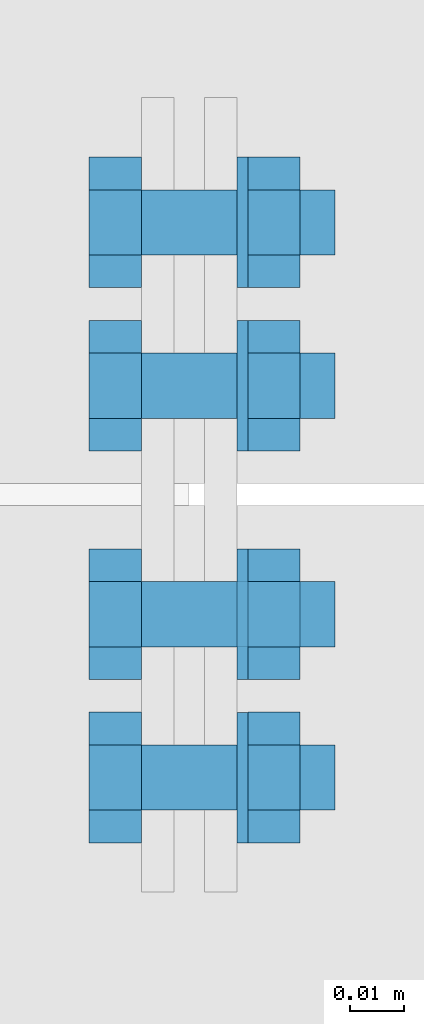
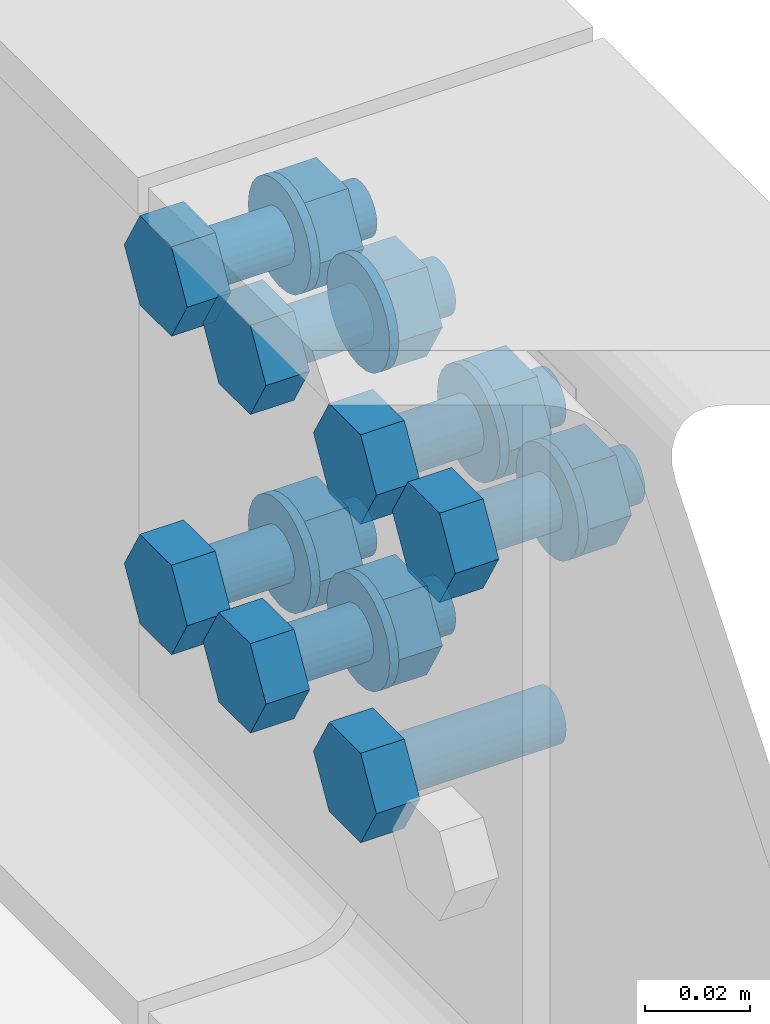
# One storey, part 79 of 84: 39 mechanical fasteners.
"""IFC4 building model written with IfcOpenShell, lengths in metres."""

from ifc_helpers import new_model, si_unit, frame, origin_with_axes, place, context, project, spatial, polyline, outline, extrude, type_object, element, save


model = new_model("IFC4")

# Units and contexts
model_context = context("Model", 3, precision=1e-05, world=origin_with_axes())
ifc_project = project(units=[si_unit("LENGTHUNIT", "METRE"), si_unit("AREAUNIT", "SQUARE_METRE"), si_unit("VOLUMEUNIT", "CUBIC_METRE"), si_unit("MASSUNIT", "GRAM", prefix="KILO"), si_unit("TIMEUNIT", "SECOND"), si_unit("PLANEANGLEUNIT", "RADIAN"), si_unit("SOLIDANGLEUNIT", "STERADIAN"), si_unit("THERMODYNAMICTEMPERATUREUNIT", "DEGREE_CELSIUS")], contexts=[model_context])

# Site, building, storey
placement_1 = place(None, origin_with_axes())
site = spatial("IfcSite", under=ifc_project, at=placement_1, Name="Italia", CompositionType="ELEMENT")
building = spatial("IfcBuilding", under=site, at=placement_1, Name="Tettoia", CompositionType="ELEMENT")
storey_placement = place(None, frame((0.0, 0.0, 4.199999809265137), z_axis=(0.0, 0.0, 1.0), x_axis=(1.0, 0.0, 0.0)))
storey = spatial("IfcBuildingStorey", under=building, at=storey_placement, Name="Storey 1", CompositionType="ELEMENT", Elevation=4.199999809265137)

# Mechanical fasteners
mechanical_fastener_type_1 = type_object("IfcMechanicalFastenerType", Name="Collegamento 0123_0115", PredefinedType="BOLT")
placement_2 = place(placement_1, origin_with_axes())
mechanical_fastener_1_placement = place(placement_2, origin_with_axes())
element("IfcMechanicalFastener", 1, at=mechanical_fastener_1_placement, inside=storey, type_object=mechanical_fastener_type_1, Name="Collegamento 0123_0115", NominalDiameter=0.024, context=model_context, shape_type="SweptSolid", body=[
    extrude(outline(polyline([(0.0, 0.0), (-0.000408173, -0.00310564), (-0.00160599, -0.00600004), (-0.00351334, -0.00848532), (-0.00599861, -0.0103922), (-0.00889397, -0.011591), (-0.0119991, -0.0120001), (-0.0151043, -0.011591), (-0.0179996, -0.0103922), (-0.0204849, -0.00848532), (-0.0223923, -0.00600004), (-0.0235901, -0.00310564), (-0.0239983, 0.0), (-0.0235901, 0.00310564), (-0.0223923, 0.00600004), (-0.0204849, 0.00848532), (-0.0179996, 0.0103922), (-0.0151043, 0.011591), (-0.0119991, 0.0120001), (-0.00889397, 0.011591), (-0.00599861, 0.0103922), (-0.00351334, 0.00848532), (-0.00160599, 0.00600004), (-0.000408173, 0.00310564), (0.0, 0.0)])), frame((4.0808, 16.895, 4.337), z_axis=(-1.0, 0.0, 0.0), x_axis=(0.0, -1.0, 0.0)), (0.0, 0.0, 1.0), 0.00199986),
])
mechanical_fastener_type_2 = type_object("IfcMechanicalFastenerType", Name="Collegamento 0123_0115", PredefinedType="BOLT")
mechanical_fastener_2_placement = place(placement_2, origin_with_axes())
element("IfcMechanicalFastener", 2, at=mechanical_fastener_2_placement, inside=storey, type_object=mechanical_fastener_type_2, Name="Collegamento 0123_0115", NominalDiameter=0.0119992, context=model_context, shape_type="SweptSolid", body=[
    extrude(outline(polyline([(0.0, 0.0), (0.012001, 0.0), (0.0179996, -0.0103922), (0.012001, -0.0207849), (0.0, -0.0207849), (-0.00599861, -0.0103922), (0.0, 0.0)])), frame((4.0612, 16.943, 4.34739), z_axis=(-1.0, 0.0, 0.0), x_axis=(0.0, -1.0, 0.0)), (0.0, 0.0, 1.0), 0.00960016),
])
mechanical_fastener_type_3 = type_object("IfcMechanicalFastenerType", Name="Collegamento 0123_0115", PredefinedType="BOLT")
mechanical_fastener_3_placement = place(placement_2, origin_with_axes())
element("IfcMechanicalFastener", 3, at=mechanical_fastener_3_placement, inside=storey, type_object=mechanical_fastener_type_3, Name="Collegamento 0123_0115", NominalDiameter=0.012, context=model_context, shape_type="SweptSolid", body=[
    extrude(outline(polyline([(0.0, 0.0), (-0.000204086, -0.00155306), (-0.000804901, -0.00299978), (-0.00175858, -0.00424242), (-0.00300026, -0.00519609), (-0.00444794, -0.00579548), (-0.00600052, -0.00600004), (-0.0075531, -0.00579548), (-0.00900078, -0.00519609), (-0.0102425, -0.00424242), (-0.0111961, -0.00299978), (-0.011797, -0.00155306), (-0.012001, 0.0), (-0.011797, 0.00155306), (-0.0111961, 0.00299978), (-0.0102425, 0.00424242), (-0.00900078, 0.00519609), (-0.0075531, 0.00579548), (-0.00600052, 0.00600004), (-0.00444794, 0.00579548), (-0.00300026, 0.00519609), (-0.00175858, 0.00424242), (-0.000804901, 0.00299978), (-0.000204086, 0.00155306), (0.0, 0.0)])), frame((4.0968, 16.931, 4.337), z_axis=(-1.0, 0.0, 0.0), x_axis=(0.0, -1.0, 0.0)), (0.0, 0.0, 1.0), 0.0356002),
])
mechanical_fastener_type_4 = type_object("IfcMechanicalFastenerType", Name="Collegamento 0123_0115", PredefinedType="BOLT")
mechanical_fastener_4_placement = place(placement_2, origin_with_axes())
element("IfcMechanicalFastener", 4, at=mechanical_fastener_4_placement, inside=storey, type_object=mechanical_fastener_type_4, Name="Collegamento 0123_0115", NominalDiameter=0.0119992, context=model_context, shape_type="SweptSolid", body=[
    extrude(outline(polyline([(0.0, 0.0), (0.012001, 0.0), (0.0179996, -0.0103922), (0.012001, -0.0207849), (0.0, -0.0207849), (-0.00599861, -0.0103922), (0.0, 0.0)])), frame((4.0904, 16.943, 4.34739), z_axis=(-1.0, 0.0, 0.0), x_axis=(0.0, -1.0, 0.0)), (0.0, 0.0, 1.0), 0.00960016),
])
mechanical_fastener_type_5 = type_object("IfcMechanicalFastenerType", Name="Collegamento 0123_0115", PredefinedType="BOLT")
mechanical_fastener_5_placement = place(placement_2, origin_with_axes())
element("IfcMechanicalFastener", 5, at=mechanical_fastener_5_placement, inside=storey, type_object=mechanical_fastener_type_5, Name="Collegamento 0123_0115", NominalDiameter=0.024, context=model_context, shape_type="SweptSolid", body=[
    extrude(outline(polyline([(0.0, 0.0), (-0.000408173, -0.00310564), (-0.00160599, -0.00600004), (-0.00351334, -0.00848532), (-0.00599861, -0.0103922), (-0.00889397, -0.011591), (-0.0119991, -0.0120001), (-0.0151043, -0.011591), (-0.0179996, -0.0103922), (-0.0204849, -0.00848532), (-0.0223923, -0.00600004), (-0.0235901, -0.00310564), (-0.0239983, 0.0), (-0.0235901, 0.00310564), (-0.0223923, 0.00600004), (-0.0204849, 0.00848532), (-0.0179996, 0.0103922), (-0.0151043, 0.011591), (-0.0119991, 0.0120001), (-0.00889397, 0.011591), (-0.00599861, 0.0103922), (-0.00351334, 0.00848532), (-0.00160599, 0.00600004), (-0.000408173, 0.00310564), (0.0, 0.0)])), frame((4.0808, 16.925, 4.337), z_axis=(-1.0, 0.0, 0.0), x_axis=(0.0, -1.0, 0.0)), (0.0, 0.0, 1.0), 0.00199986),
])
mechanical_fastener_type_6 = type_object("IfcMechanicalFastenerType", Name="Collegamento 0123_0115", PredefinedType="BOLT")
mechanical_fastener_6_placement = place(placement_2, origin_with_axes())
element("IfcMechanicalFastener", 6, at=mechanical_fastener_6_placement, inside=storey, type_object=mechanical_fastener_type_6, Name="Collegamento 0123_0115", NominalDiameter=0.0119991, context=model_context, shape_type="SweptSolid", body=[
    extrude(outline(polyline([(0.0, 0.0), (0.0119991, 0.0), (0.0179996, -0.0103927), (0.0119991, -0.0207849), (0.0, -0.0207849), (-0.00600052, -0.0103927), (0.0, 0.0)])), frame((4.0612, 16.913, 4.27339), z_axis=(-1.0, 0.0, 0.0), x_axis=(0.0, -1.0, 0.0)), (0.0, 0.0, 1.0), 0.00960016),
])
mechanical_fastener_type_7 = type_object("IfcMechanicalFastenerType", Name="Collegamento 0123_0115", PredefinedType="BOLT")
mechanical_fastener_7_placement = place(placement_2, origin_with_axes())
element("IfcMechanicalFastener", 7, at=mechanical_fastener_7_placement, inside=storey, type_object=mechanical_fastener_type_7, Name="Collegamento 0123_0115", NominalDiameter=0.012, context=model_context, shape_type="SweptSolid", body=[
    extrude(outline(polyline([(0.0, 0.0), (-0.000204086, -0.00155306), (-0.000804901, -0.00299978), (-0.00175858, -0.00424242), (-0.00300026, -0.00519609), (-0.00444794, -0.00579548), (-0.00600052, -0.00600004), (-0.0075531, -0.00579548), (-0.00900078, -0.00519609), (-0.0102425, -0.00424242), (-0.0111961, -0.00299978), (-0.011797, -0.00155306), (-0.012001, 0.0), (-0.011797, 0.00155306), (-0.0111961, 0.00299978), (-0.0102425, 0.00424242), (-0.00900078, 0.00519609), (-0.0075531, 0.00579548), (-0.00600052, 0.00600004), (-0.00444794, 0.00579548), (-0.00300026, 0.00519609), (-0.00175858, 0.00424242), (-0.000804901, 0.00299978), (-0.000204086, 0.00155306), (0.0, 0.0)])), frame((4.0968, 16.901, 4.263), z_axis=(-1.0, 0.0, 0.0), x_axis=(0.0, -1.0, 0.0)), (0.0, 0.0, 1.0), 0.0356002),
])
mechanical_fastener_type_8 = type_object("IfcMechanicalFastenerType", Name="Collegamento 0123_0115", PredefinedType="BOLT")
mechanical_fastener_8_placement = place(placement_2, origin_with_axes())
element("IfcMechanicalFastener", 8, at=mechanical_fastener_8_placement, inside=storey, type_object=mechanical_fastener_type_8, Name="Collegamento 0123_0115", NominalDiameter=0.0119991, context=model_context, shape_type="SweptSolid", body=[
    extrude(outline(polyline([(0.0, 0.0), (0.0119991, 0.0), (0.0179996, -0.0103927), (0.0119991, -0.0207849), (0.0, -0.0207849), (-0.00600052, -0.0103927), (0.0, 0.0)])), frame((4.0904, 16.913, 4.27339), z_axis=(-1.0, 0.0, 0.0), x_axis=(0.0, -1.0, 0.0)), (0.0, 0.0, 1.0), 0.00960016),
])
mechanical_fastener_type_9 = type_object("IfcMechanicalFastenerType", Name="Collegamento 0123_0115", PredefinedType="BOLT")
mechanical_fastener_9_placement = place(placement_2, origin_with_axes())
element("IfcMechanicalFastener", 9, at=mechanical_fastener_9_placement, inside=storey, type_object=mechanical_fastener_type_9, Name="Collegamento 0123_0115", NominalDiameter=0.024, context=model_context, shape_type="SweptSolid", body=[
    extrude(outline(polyline([(0.0, 0.0), (-0.000408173, -0.00310564), (-0.00160599, -0.00600004), (-0.00351334, -0.00848532), (-0.00599861, -0.0103922), (-0.00889397, -0.011591), (-0.0119991, -0.0120001), (-0.0151043, -0.011591), (-0.0179996, -0.0103922), (-0.0204849, -0.00848532), (-0.0223923, -0.00600004), (-0.0235901, -0.00310564), (-0.0239983, 0.0), (-0.0235901, 0.00310564), (-0.0223923, 0.00600004), (-0.0204849, 0.00848532), (-0.0179996, 0.0103922), (-0.0151043, 0.011591), (-0.0119991, 0.0120001), (-0.00889397, 0.011591), (-0.00599861, 0.0103922), (-0.00351334, 0.00848532), (-0.00160599, 0.00600004), (-0.000408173, 0.00310564), (0.0, 0.0)])), frame((4.0808, 16.895, 4.263), z_axis=(-1.0, 0.0, 0.0), x_axis=(0.0, -1.0, 0.0)), (0.0, 0.0, 1.0), 0.00199986),
])
mechanical_fastener_type_10 = type_object("IfcMechanicalFastenerType", Name="Collegamento 0123_0115", PredefinedType="BOLT")
mechanical_fastener_10_placement = place(placement_2, origin_with_axes())
element("IfcMechanicalFastener", 10, at=mechanical_fastener_10_placement, inside=storey, type_object=mechanical_fastener_type_10, Name="Collegamento 0123_0115", NominalDiameter=0.0119992, context=model_context, shape_type="SweptSolid", body=[
    extrude(outline(polyline([(0.0, 0.0), (0.012001, 0.0), (0.0179996, -0.0103927), (0.012001, -0.0207849), (0.0, -0.0207849), (-0.00599861, -0.0103927), (0.0, 0.0)])), frame((4.0612, 16.943, 4.27339), z_axis=(-1.0, 0.0, 0.0), x_axis=(0.0, -1.0, 0.0)), (0.0, 0.0, 1.0), 0.00960016),
])
mechanical_fastener_type_11 = type_object("IfcMechanicalFastenerType", Name="Collegamento 0123_0115", PredefinedType="BOLT")
mechanical_fastener_11_placement = place(placement_2, origin_with_axes())
element("IfcMechanicalFastener", 11, at=mechanical_fastener_11_placement, inside=storey, type_object=mechanical_fastener_type_11, Name="Collegamento 0123_0115", NominalDiameter=0.012, context=model_context, shape_type="SweptSolid", body=[
    extrude(outline(polyline([(0.0, 0.0), (-0.000204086, -0.00155306), (-0.000804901, -0.00299978), (-0.00175858, -0.00424242), (-0.00300026, -0.00519609), (-0.00444794, -0.00579548), (-0.00600052, -0.00600004), (-0.0075531, -0.00579548), (-0.00900078, -0.00519609), (-0.0102425, -0.00424242), (-0.0111961, -0.00299978), (-0.011797, -0.00155306), (-0.012001, 0.0), (-0.011797, 0.00155306), (-0.0111961, 0.00299978), (-0.0102425, 0.00424242), (-0.00900078, 0.00519609), (-0.0075531, 0.00579548), (-0.00600052, 0.00600004), (-0.00444794, 0.00579548), (-0.00300026, 0.00519609), (-0.00175858, 0.00424242), (-0.000804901, 0.00299978), (-0.000204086, 0.00155306), (0.0, 0.0)])), frame((4.0968, 16.931, 4.263), z_axis=(-1.0, 0.0, 0.0), x_axis=(0.0, -1.0, 0.0)), (0.0, 0.0, 1.0), 0.0356002),
])
mechanical_fastener_type_12 = type_object("IfcMechanicalFastenerType", Name="Collegamento 0123_0115", PredefinedType="BOLT")
mechanical_fastener_12_placement = place(placement_2, origin_with_axes())
element("IfcMechanicalFastener", 12, at=mechanical_fastener_12_placement, inside=storey, type_object=mechanical_fastener_type_12, Name="Collegamento 0123_0115", NominalDiameter=0.0119992, context=model_context, shape_type="SweptSolid", body=[
    extrude(outline(polyline([(0.0, 0.0), (0.012001, 0.0), (0.0179996, -0.0103927), (0.012001, -0.0207849), (0.0, -0.0207849), (-0.00599861, -0.0103927), (0.0, 0.0)])), frame((4.0904, 16.943, 4.27339), z_axis=(-1.0, 0.0, 0.0), x_axis=(0.0, -1.0, 0.0)), (0.0, 0.0, 1.0), 0.00960016),
])
mechanical_fastener_type_13 = type_object("IfcMechanicalFastenerType", Name="Collegamento 0123_0115", PredefinedType="BOLT")
mechanical_fastener_13_placement = place(placement_2, origin_with_axes())
element("IfcMechanicalFastener", 13, at=mechanical_fastener_13_placement, inside=storey, type_object=mechanical_fastener_type_13, Name="Collegamento 0123_0115", NominalDiameter=0.024, context=model_context, shape_type="SweptSolid", body=[
    extrude(outline(polyline([(0.0, 0.0), (-0.000408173, -0.00310564), (-0.00160599, -0.00600004), (-0.00351334, -0.00848532), (-0.00599861, -0.0103922), (-0.00889397, -0.011591), (-0.0119991, -0.0120001), (-0.0151043, -0.011591), (-0.0179996, -0.0103922), (-0.0204849, -0.00848532), (-0.0223923, -0.00600004), (-0.0235901, -0.00310564), (-0.0239983, 0.0), (-0.0235901, 0.00310564), (-0.0223923, 0.00600004), (-0.0204849, 0.00848532), (-0.0179996, 0.0103922), (-0.0151043, 0.011591), (-0.0119991, 0.0120001), (-0.00889397, 0.011591), (-0.00599861, 0.0103922), (-0.00351334, 0.00848532), (-0.00160599, 0.00600004), (-0.000408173, 0.00310564), (0.0, 0.0)])), frame((4.0808, 16.925, 4.263), z_axis=(-1.0, 0.0, 0.0), x_axis=(0.0, -1.0, 0.0)), (0.0, 0.0, 1.0), 0.00199986),
])
mechanical_fastener_type_14 = type_object("IfcMechanicalFastenerType", Name="Collegamento 0123_0115", PredefinedType="BOLT")
mechanical_fastener_14_placement = place(placement_2, origin_with_axes())
element("IfcMechanicalFastener", 14, at=mechanical_fastener_14_placement, inside=storey, type_object=mechanical_fastener_type_14, Name="Collegamento 0123_0115", NominalDiameter=0.0119991, context=model_context, shape_type="SweptSolid", body=[
    extrude(outline(polyline([(0.0, 0.0), (0.0119991, 0.0), (0.0179996, -0.0103922), (0.0119991, -0.0207849), (0.0, -0.0207849), (-0.00600052, -0.0103922), (0.0, 0.0)])), frame((4.0612, 16.913, 4.34739), z_axis=(-1.0, 0.0, 0.0), x_axis=(0.0, -1.0, 0.0)), (0.0, 0.0, 1.0), 0.00960016),
])
mechanical_fastener_type_15 = type_object("IfcMechanicalFastenerType", Name="Collegamento 0123_0115", PredefinedType="BOLT")
mechanical_fastener_15_placement = place(placement_2, origin_with_axes())
element("IfcMechanicalFastener", 15, at=mechanical_fastener_15_placement, inside=storey, type_object=mechanical_fastener_type_15, Name="Collegamento 0123_0115", NominalDiameter=0.012, context=model_context, shape_type="SweptSolid", body=[
    extrude(outline(polyline([(0.0, 0.0), (-0.000204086, -0.00155306), (-0.000804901, -0.00299978), (-0.00175858, -0.00424242), (-0.00300026, -0.00519609), (-0.00444794, -0.00579548), (-0.00600052, -0.00600004), (-0.0075531, -0.00579548), (-0.00900078, -0.00519609), (-0.0102425, -0.00424242), (-0.0111961, -0.00299978), (-0.011797, -0.00155306), (-0.012001, 0.0), (-0.011797, 0.00155306), (-0.0111961, 0.00299978), (-0.0102425, 0.00424242), (-0.00900078, 0.00519609), (-0.0075531, 0.00579548), (-0.00600052, 0.00600004), (-0.00444794, 0.00579548), (-0.00300026, 0.00519609), (-0.00175858, 0.00424242), (-0.000804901, 0.00299978), (-0.000204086, 0.00155306), (0.0, 0.0)])), frame((4.0968, 16.901, 4.337), z_axis=(-1.0, 0.0, 0.0), x_axis=(0.0, -1.0, 0.0)), (0.0, 0.0, 1.0), 0.0356002),
])
mechanical_fastener_type_16 = type_object("IfcMechanicalFastenerType", Name="Collegamento 0123_0115", PredefinedType="BOLT")
mechanical_fastener_16_placement = place(placement_2, origin_with_axes())
element("IfcMechanicalFastener", 16, at=mechanical_fastener_16_placement, inside=storey, type_object=mechanical_fastener_type_16, Name="Collegamento 0123_0115", NominalDiameter=0.0119991, context=model_context, shape_type="SweptSolid", body=[
    extrude(outline(polyline([(0.0, 0.0), (0.0119991, 0.0), (0.0179996, -0.0103922), (0.0119991, -0.0207849), (0.0, -0.0207849), (-0.00600052, -0.0103922), (0.0, 0.0)])), frame((4.0904, 16.913, 4.34739), z_axis=(-1.0, 0.0, 0.0), x_axis=(0.0, -1.0, 0.0)), (0.0, 0.0, 1.0), 0.00960016),
])
mechanical_fastener_type_17 = type_object("IfcMechanicalFastenerType", Name="Collegamento 0123_0115", PredefinedType="BOLT")
mechanical_fastener_17_placement = place(placement_2, origin_with_axes())
element("IfcMechanicalFastener", 17, at=mechanical_fastener_17_placement, inside=storey, type_object=mechanical_fastener_type_17, Name="Collegamento 0123_0115", NominalDiameter=0.024, context=model_context, shape_type="SweptSolid", body=[
    extrude(outline(polyline([(0.0, 0.0), (-0.000408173, -0.00310564), (-0.00160599, -0.00600004), (-0.00351334, -0.00848532), (-0.00599861, -0.0103922), (-0.00889397, -0.011591), (-0.0119991, -0.0120001), (-0.0151043, -0.011591), (-0.0179996, -0.0103922), (-0.0204849, -0.00848532), (-0.0223923, -0.00600004), (-0.0235901, -0.00310564), (-0.0239983, 0.0), (-0.0235901, 0.00310564), (-0.0223923, 0.00600004), (-0.0204849, 0.00848532), (-0.0179996, 0.0103922), (-0.0151043, 0.011591), (-0.0119991, 0.0120001), (-0.00889397, 0.011591), (-0.00599861, 0.0103922), (-0.00351334, 0.00848532), (-0.00160599, 0.00600004), (-0.000408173, 0.00310564), (0.0, 0.0)])), frame((4.0808, 16.895, 4.337), z_axis=(-1.0, 0.0, 0.0), x_axis=(0.0, -1.0, 0.0)), (0.0, 0.0, 1.0), 0.00199986),
])
mechanical_fastener_type_18 = type_object("IfcMechanicalFastenerType", Name="Collegamento 0123_0115", PredefinedType="BOLT")
mechanical_fastener_18_placement = place(placement_2, origin_with_axes())
element("IfcMechanicalFastener", 18, at=mechanical_fastener_18_placement, inside=storey, type_object=mechanical_fastener_type_18, Name="Collegamento 0123_0115", NominalDiameter=0.0119992, context=model_context, shape_type="SweptSolid", body=[
    extrude(outline(polyline([(0.0, 0.0), (0.012001, 0.0), (0.0179996, -0.0103922), (0.012001, -0.0207849), (0.0, -0.0207849), (-0.00599861, -0.0103922), (0.0, 0.0)])), frame((4.0612, 16.943, 4.34739), z_axis=(-1.0, 0.0, 0.0), x_axis=(0.0, -1.0, 0.0)), (0.0, 0.0, 1.0), 0.00960016),
])
mechanical_fastener_type_19 = type_object("IfcMechanicalFastenerType", Name="Collegamento 0123_0115", PredefinedType="BOLT")
mechanical_fastener_19_placement = place(placement_2, origin_with_axes())
element("IfcMechanicalFastener", 19, at=mechanical_fastener_19_placement, inside=storey, type_object=mechanical_fastener_type_19, Name="Collegamento 0123_0115", NominalDiameter=0.012, context=model_context, shape_type="SweptSolid", body=[
    extrude(outline(polyline([(0.0, 0.0), (-0.000204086, -0.00155306), (-0.000804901, -0.00299978), (-0.00175858, -0.00424242), (-0.00300026, -0.00519609), (-0.00444794, -0.00579548), (-0.00600052, -0.00600004), (-0.0075531, -0.00579548), (-0.00900078, -0.00519609), (-0.0102425, -0.00424242), (-0.0111961, -0.00299978), (-0.011797, -0.00155306), (-0.012001, 0.0), (-0.011797, 0.00155306), (-0.0111961, 0.00299978), (-0.0102425, 0.00424242), (-0.00900078, 0.00519609), (-0.0075531, 0.00579548), (-0.00600052, 0.00600004), (-0.00444794, 0.00579548), (-0.00300026, 0.00519609), (-0.00175858, 0.00424242), (-0.000804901, 0.00299978), (-0.000204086, 0.00155306), (0.0, 0.0)])), frame((4.0968, 16.931, 4.337), z_axis=(-1.0, 0.0, 0.0), x_axis=(0.0, -1.0, 0.0)), (0.0, 0.0, 1.0), 0.0356002),
])
mechanical_fastener_type_20 = type_object("IfcMechanicalFastenerType", Name="Collegamento 0123_0115", PredefinedType="BOLT")
mechanical_fastener_20_placement = place(placement_2, origin_with_axes())
element("IfcMechanicalFastener", 20, at=mechanical_fastener_20_placement, inside=storey, type_object=mechanical_fastener_type_20, Name="Collegamento 0123_0115", NominalDiameter=0.0119992, context=model_context, shape_type="SweptSolid", body=[
    extrude(outline(polyline([(0.0, 0.0), (0.012001, 0.0), (0.0179996, -0.0103922), (0.012001, -0.0207849), (0.0, -0.0207849), (-0.00599861, -0.0103922), (0.0, 0.0)])), frame((4.0904, 16.943, 4.34739), z_axis=(-1.0, 0.0, 0.0), x_axis=(0.0, -1.0, 0.0)), (0.0, 0.0, 1.0), 0.00960016),
])
mechanical_fastener_type_21 = type_object("IfcMechanicalFastenerType", Name="Collegamento 0123_0115", PredefinedType="BOLT")
mechanical_fastener_21_placement = place(placement_2, origin_with_axes())
element("IfcMechanicalFastener", 21, at=mechanical_fastener_21_placement, inside=storey, type_object=mechanical_fastener_type_21, Name="Collegamento 0123_0115", NominalDiameter=0.024, context=model_context, shape_type="SweptSolid", body=[
    extrude(outline(polyline([(0.0, 0.0), (-0.000408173, -0.00310564), (-0.00160599, -0.00600004), (-0.00351334, -0.00848532), (-0.00599861, -0.0103922), (-0.00889397, -0.011591), (-0.0119991, -0.0120001), (-0.0151043, -0.011591), (-0.0179996, -0.0103922), (-0.0204849, -0.00848532), (-0.0223923, -0.00600004), (-0.0235901, -0.00310564), (-0.0239983, 0.0), (-0.0235901, 0.00310564), (-0.0223923, 0.00600004), (-0.0204849, 0.00848532), (-0.0179996, 0.0103922), (-0.0151043, 0.011591), (-0.0119991, 0.0120001), (-0.00889397, 0.011591), (-0.00599861, 0.0103922), (-0.00351334, 0.00848532), (-0.00160599, 0.00600004), (-0.000408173, 0.00310564), (0.0, 0.0)])), frame((4.0808, 16.925, 4.337), z_axis=(-1.0, 0.0, 0.0), x_axis=(0.0, -1.0, 0.0)), (0.0, 0.0, 1.0), 0.00199986),
])
mechanical_fastener_type_22 = type_object("IfcMechanicalFastenerType", Name="Collegamento 0123_0115", PredefinedType="BOLT")
mechanical_fastener_22_placement = place(placement_2, origin_with_axes())
element("IfcMechanicalFastener", 22, at=mechanical_fastener_22_placement, inside=storey, type_object=mechanical_fastener_type_22, Name="Collegamento 0123_0115", NominalDiameter=0.0119991, context=model_context, shape_type="SweptSolid", body=[
    extrude(outline(polyline([(0.0, 0.0), (0.0119991, 0.0), (0.0179996, -0.0103927), (0.0119991, -0.0207849), (0.0, -0.0207849), (-0.00600052, -0.0103927), (0.0, 0.0)])), frame((4.0612, 16.913, 4.27339), z_axis=(-1.0, 0.0, 0.0), x_axis=(0.0, -1.0, 0.0)), (0.0, 0.0, 1.0), 0.00960016),
])
mechanical_fastener_type_23 = type_object("IfcMechanicalFastenerType", Name="Collegamento 0123_0115", PredefinedType="BOLT")
mechanical_fastener_23_placement = place(placement_2, origin_with_axes())
element("IfcMechanicalFastener", 23, at=mechanical_fastener_23_placement, inside=storey, type_object=mechanical_fastener_type_23, Name="Collegamento 0123_0115", NominalDiameter=0.012, context=model_context, shape_type="SweptSolid", body=[
    extrude(outline(polyline([(0.0, 0.0), (-0.000204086, -0.00155306), (-0.000804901, -0.00299978), (-0.00175858, -0.00424242), (-0.00300026, -0.00519609), (-0.00444794, -0.00579548), (-0.00600052, -0.00600004), (-0.0075531, -0.00579548), (-0.00900078, -0.00519609), (-0.0102425, -0.00424242), (-0.0111961, -0.00299978), (-0.011797, -0.00155306), (-0.012001, 0.0), (-0.011797, 0.00155306), (-0.0111961, 0.00299978), (-0.0102425, 0.00424242), (-0.00900078, 0.00519609), (-0.0075531, 0.00579548), (-0.00600052, 0.00600004), (-0.00444794, 0.00579548), (-0.00300026, 0.00519609), (-0.00175858, 0.00424242), (-0.000804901, 0.00299978), (-0.000204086, 0.00155306), (0.0, 0.0)])), frame((4.0968, 16.901, 4.263), z_axis=(-1.0, 0.0, 0.0), x_axis=(0.0, -1.0, 0.0)), (0.0, 0.0, 1.0), 0.0356002),
])
mechanical_fastener_type_24 = type_object("IfcMechanicalFastenerType", Name="Collegamento 0123_0115", PredefinedType="BOLT")
mechanical_fastener_24_placement = place(placement_2, origin_with_axes())
element("IfcMechanicalFastener", 24, at=mechanical_fastener_24_placement, inside=storey, type_object=mechanical_fastener_type_24, Name="Collegamento 0123_0115", NominalDiameter=0.0119991, context=model_context, shape_type="SweptSolid", body=[
    extrude(outline(polyline([(0.0, 0.0), (0.0119991, 0.0), (0.0179996, -0.0103927), (0.0119991, -0.0207849), (0.0, -0.0207849), (-0.00600052, -0.0103927), (0.0, 0.0)])), frame((4.0904, 16.913, 4.27339), z_axis=(-1.0, 0.0, 0.0), x_axis=(0.0, -1.0, 0.0)), (0.0, 0.0, 1.0), 0.00960016),
])
mechanical_fastener_type_25 = type_object("IfcMechanicalFastenerType", Name="Collegamento 0123_0115", PredefinedType="BOLT")
mechanical_fastener_25_placement = place(placement_2, origin_with_axes())
element("IfcMechanicalFastener", 25, at=mechanical_fastener_25_placement, inside=storey, type_object=mechanical_fastener_type_25, Name="Collegamento 0123_0115", NominalDiameter=0.024, context=model_context, shape_type="SweptSolid", body=[
    extrude(outline(polyline([(0.0, 0.0), (-0.000408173, -0.00310564), (-0.00160599, -0.00600004), (-0.00351334, -0.00848532), (-0.00599861, -0.0103922), (-0.00889397, -0.011591), (-0.0119991, -0.0120001), (-0.0151043, -0.011591), (-0.0179996, -0.0103922), (-0.0204849, -0.00848532), (-0.0223923, -0.00600004), (-0.0235901, -0.00310564), (-0.0239983, 0.0), (-0.0235901, 0.00310564), (-0.0223923, 0.00600004), (-0.0204849, 0.00848532), (-0.0179996, 0.0103922), (-0.0151043, 0.011591), (-0.0119991, 0.0120001), (-0.00889397, 0.011591), (-0.00599861, 0.0103922), (-0.00351334, 0.00848532), (-0.00160599, 0.00600004), (-0.000408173, 0.00310564), (0.0, 0.0)])), frame((4.0808, 16.895, 4.263), z_axis=(-1.0, 0.0, 0.0), x_axis=(0.0, -1.0, 0.0)), (0.0, 0.0, 1.0), 0.00199986),
])
mechanical_fastener_type_26 = type_object("IfcMechanicalFastenerType", Name="Collegamento 0123_0115", PredefinedType="BOLT")
mechanical_fastener_26_placement = place(placement_2, origin_with_axes())
element("IfcMechanicalFastener", 26, at=mechanical_fastener_26_placement, inside=storey, type_object=mechanical_fastener_type_26, Name="Collegamento 0123_0115", NominalDiameter=0.0119992, context=model_context, shape_type="SweptSolid", body=[
    extrude(outline(polyline([(0.0, 0.0), (0.012001, 0.0), (0.0179996, -0.0103927), (0.012001, -0.0207849), (0.0, -0.0207849), (-0.00599861, -0.0103927), (0.0, 0.0)])), frame((4.0612, 16.943, 4.27339), z_axis=(-1.0, 0.0, 0.0), x_axis=(0.0, -1.0, 0.0)), (0.0, 0.0, 1.0), 0.00960016),
])
mechanical_fastener_type_27 = type_object("IfcMechanicalFastenerType", Name="Collegamento 0123_0115", PredefinedType="BOLT")
mechanical_fastener_27_placement = place(placement_2, origin_with_axes())
element("IfcMechanicalFastener", 27, at=mechanical_fastener_27_placement, inside=storey, type_object=mechanical_fastener_type_27, Name="Collegamento 0123_0115", NominalDiameter=0.012, context=model_context, shape_type="SweptSolid", body=[
    extrude(outline(polyline([(0.0, 0.0), (-0.000204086, -0.00155306), (-0.000804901, -0.00299978), (-0.00175858, -0.00424242), (-0.00300026, -0.00519609), (-0.00444794, -0.00579548), (-0.00600052, -0.00600004), (-0.0075531, -0.00579548), (-0.00900078, -0.00519609), (-0.0102425, -0.00424242), (-0.0111961, -0.00299978), (-0.011797, -0.00155306), (-0.012001, 0.0), (-0.011797, 0.00155306), (-0.0111961, 0.00299978), (-0.0102425, 0.00424242), (-0.00900078, 0.00519609), (-0.0075531, 0.00579548), (-0.00600052, 0.00600004), (-0.00444794, 0.00579548), (-0.00300026, 0.00519609), (-0.00175858, 0.00424242), (-0.000804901, 0.00299978), (-0.000204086, 0.00155306), (0.0, 0.0)])), frame((4.0968, 16.931, 4.263), z_axis=(-1.0, 0.0, 0.0), x_axis=(0.0, -1.0, 0.0)), (0.0, 0.0, 1.0), 0.0356002),
])
mechanical_fastener_type_28 = type_object("IfcMechanicalFastenerType", Name="Collegamento 0123_0115", PredefinedType="BOLT")
mechanical_fastener_28_placement = place(placement_2, origin_with_axes())
element("IfcMechanicalFastener", 28, at=mechanical_fastener_28_placement, inside=storey, type_object=mechanical_fastener_type_28, Name="Collegamento 0123_0115", NominalDiameter=0.0119992, context=model_context, shape_type="SweptSolid", body=[
    extrude(outline(polyline([(0.0, 0.0), (0.012001, 0.0), (0.0179996, -0.0103927), (0.012001, -0.0207849), (0.0, -0.0207849), (-0.00599861, -0.0103927), (0.0, 0.0)])), frame((4.0904, 16.943, 4.27339), z_axis=(-1.0, 0.0, 0.0), x_axis=(0.0, -1.0, 0.0)), (0.0, 0.0, 1.0), 0.00960016),
])
mechanical_fastener_type_29 = type_object("IfcMechanicalFastenerType", Name="Collegamento 0123_0115", PredefinedType="BOLT")
mechanical_fastener_29_placement = place(placement_2, origin_with_axes())
element("IfcMechanicalFastener", 29, at=mechanical_fastener_29_placement, inside=storey, type_object=mechanical_fastener_type_29, Name="Collegamento 0123_0115", NominalDiameter=0.024, context=model_context, shape_type="SweptSolid", body=[
    extrude(outline(polyline([(0.0, 0.0), (-0.000408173, -0.00310564), (-0.00160599, -0.00600004), (-0.00351334, -0.00848532), (-0.00599861, -0.0103922), (-0.00889397, -0.011591), (-0.0119991, -0.0120001), (-0.0151043, -0.011591), (-0.0179996, -0.0103922), (-0.0204849, -0.00848532), (-0.0223923, -0.00600004), (-0.0235901, -0.00310564), (-0.0239983, 0.0), (-0.0235901, 0.00310564), (-0.0223923, 0.00600004), (-0.0204849, 0.00848532), (-0.0179996, 0.0103922), (-0.0151043, 0.011591), (-0.0119991, 0.0120001), (-0.00889397, 0.011591), (-0.00599861, 0.0103922), (-0.00351334, 0.00848532), (-0.00160599, 0.00600004), (-0.000408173, 0.00310564), (0.0, 0.0)])), frame((4.0808, 16.925, 4.263), z_axis=(-1.0, 0.0, 0.0), x_axis=(0.0, -1.0, 0.0)), (0.0, 0.0, 1.0), 0.00199986),
])
mechanical_fastener_type_30 = type_object("IfcMechanicalFastenerType", Name="Collegamento 0123_0115", PredefinedType="BOLT")
mechanical_fastener_30_placement = place(placement_2, origin_with_axes())
element("IfcMechanicalFastener", 30, at=mechanical_fastener_30_placement, inside=storey, type_object=mechanical_fastener_type_30, Name="Collegamento 0123_0115", NominalDiameter=0.0119991, context=model_context, shape_type="SweptSolid", body=[
    extrude(outline(polyline([(0.0, 0.0), (0.0119991, 0.0), (0.0179996, -0.0103922), (0.0119991, -0.0207849), (0.0, -0.0207849), (-0.00600052, -0.0103922), (0.0, 0.0)])), frame((4.0612, 16.871, 4.34739), z_axis=(-1.0, 0.0, 0.0), x_axis=(0.0, -1.0, 0.0)), (0.0, 0.0, 1.0), 0.00960016),
])
mechanical_fastener_type_31 = type_object("IfcMechanicalFastenerType", Name="Collegamento 0123_0115", PredefinedType="BOLT")
mechanical_fastener_31_placement = place(placement_2, origin_with_axes())
element("IfcMechanicalFastener", 31, at=mechanical_fastener_31_placement, inside=storey, type_object=mechanical_fastener_type_31, Name="Collegamento 0123_0115", NominalDiameter=0.012, context=model_context, shape_type="SweptSolid", body=[
    extrude(outline(polyline([(0.0, 0.0), (-0.000204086, -0.00155306), (-0.000804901, -0.00299978), (-0.00175858, -0.00424242), (-0.00300026, -0.00519609), (-0.00444794, -0.00579548), (-0.00600052, -0.00600004), (-0.0075531, -0.00579548), (-0.00900078, -0.00519609), (-0.0102425, -0.00424242), (-0.0111961, -0.00299978), (-0.011797, -0.00155306), (-0.012001, 0.0), (-0.011797, 0.00155306), (-0.0111961, 0.00299978), (-0.0102425, 0.00424242), (-0.00900078, 0.00519609), (-0.0075531, 0.00579548), (-0.00600052, 0.00600004), (-0.00444794, 0.00579548), (-0.00300026, 0.00519609), (-0.00175858, 0.00424242), (-0.000804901, 0.00299978), (-0.000204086, 0.00155306), (0.0, 0.0)])), frame((4.0968, 16.859, 4.337), z_axis=(-1.0, 0.0, 0.0), x_axis=(0.0, -1.0, 0.0)), (0.0, 0.0, 1.0), 0.0356002),
])
mechanical_fastener_type_32 = type_object("IfcMechanicalFastenerType", Name="Collegamento 0123_0115", PredefinedType="BOLT")
mechanical_fastener_32_placement = place(placement_2, origin_with_axes())
element("IfcMechanicalFastener", 32, at=mechanical_fastener_32_placement, inside=storey, type_object=mechanical_fastener_type_32, Name="Collegamento 0123_0115", NominalDiameter=0.0119991, context=model_context, shape_type="SweptSolid", body=[
    extrude(outline(polyline([(0.0, 0.0), (0.0119991, 0.0), (0.0179996, -0.0103922), (0.0119991, -0.0207849), (0.0, -0.0207849), (-0.00600052, -0.0103922), (0.0, 0.0)])), frame((4.0904, 16.871, 4.34739), z_axis=(-1.0, 0.0, 0.0), x_axis=(0.0, -1.0, 0.0)), (0.0, 0.0, 1.0), 0.00960016),
])
mechanical_fastener_type_33 = type_object("IfcMechanicalFastenerType", Name="Collegamento 0123_0115", PredefinedType="BOLT")
mechanical_fastener_33_placement = place(placement_2, origin_with_axes())
element("IfcMechanicalFastener", 33, at=mechanical_fastener_33_placement, inside=storey, type_object=mechanical_fastener_type_33, Name="Collegamento 0123_0115", NominalDiameter=0.024, context=model_context, shape_type="SweptSolid", body=[
    extrude(outline(polyline([(0.0, 0.0), (-0.000408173, -0.00310564), (-0.00160599, -0.00600004), (-0.00351334, -0.00848532), (-0.00599861, -0.0103922), (-0.00889397, -0.011591), (-0.0119991, -0.0120001), (-0.0151043, -0.011591), (-0.0179996, -0.0103922), (-0.0204849, -0.00848532), (-0.0223923, -0.00600004), (-0.0235901, -0.00310564), (-0.0239983, 0.0), (-0.0235901, 0.00310564), (-0.0223923, 0.00600004), (-0.0204849, 0.00848532), (-0.0179996, 0.0103922), (-0.0151043, 0.011591), (-0.0119991, 0.0120001), (-0.00889397, 0.011591), (-0.00599861, 0.0103922), (-0.00351334, 0.00848532), (-0.00160599, 0.00600004), (-0.000408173, 0.00310564), (0.0, 0.0)])), frame((4.0808, 16.853, 4.337), z_axis=(-1.0, 0.0, 0.0), x_axis=(0.0, -1.0, 0.0)), (0.0, 0.0, 1.0), 0.00199986),
])
mechanical_fastener_type_34 = type_object("IfcMechanicalFastenerType", Name="Collegamento 0123_0115", PredefinedType="BOLT")
mechanical_fastener_34_placement = place(placement_2, origin_with_axes())
element("IfcMechanicalFastener", 34, at=mechanical_fastener_34_placement, inside=storey, type_object=mechanical_fastener_type_34, Name="Collegamento 0123_0115", NominalDiameter=0.0119991, context=model_context, shape_type="SweptSolid", body=[
    extrude(outline(polyline([(0.0, 0.0), (0.0119991, 0.0), (0.0179996, -0.0103922), (0.0119991, -0.0207849), (0.0, -0.0207849), (-0.00600052, -0.0103922), (0.0, 0.0)])), frame((4.0612, 16.841, 4.34739), z_axis=(-1.0, 0.0, 0.0), x_axis=(0.0, -1.0, 0.0)), (0.0, 0.0, 1.0), 0.00960016),
])
mechanical_fastener_type_35 = type_object("IfcMechanicalFastenerType", Name="Collegamento 0123_0115", PredefinedType="BOLT")
mechanical_fastener_35_placement = place(placement_2, origin_with_axes())
element("IfcMechanicalFastener", 35, at=mechanical_fastener_35_placement, inside=storey, type_object=mechanical_fastener_type_35, Name="Collegamento 0123_0115", NominalDiameter=0.012, context=model_context, shape_type="SweptSolid", body=[
    extrude(outline(polyline([(0.0, 0.0), (-0.000204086, -0.00155306), (-0.000804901, -0.00299978), (-0.00175858, -0.00424242), (-0.00300026, -0.00519609), (-0.00444794, -0.00579548), (-0.00600052, -0.00600004), (-0.0075531, -0.00579548), (-0.00900078, -0.00519609), (-0.0102425, -0.00424242), (-0.0111961, -0.00299978), (-0.011797, -0.00155306), (-0.012001, 0.0), (-0.011797, 0.00155306), (-0.0111961, 0.00299978), (-0.0102425, 0.00424242), (-0.00900078, 0.00519609), (-0.0075531, 0.00579548), (-0.00600052, 0.00600004), (-0.00444794, 0.00579548), (-0.00300026, 0.00519609), (-0.00175858, 0.00424242), (-0.000804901, 0.00299978), (-0.000204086, 0.00155306), (0.0, 0.0)])), frame((4.0968, 16.829, 4.337), z_axis=(-1.0, 0.0, 0.0), x_axis=(0.0, -1.0, 0.0)), (0.0, 0.0, 1.0), 0.0356002),
])
mechanical_fastener_type_36 = type_object("IfcMechanicalFastenerType", Name="Collegamento 0123_0115", PredefinedType="BOLT")
mechanical_fastener_36_placement = place(placement_2, origin_with_axes())
element("IfcMechanicalFastener", 36, at=mechanical_fastener_36_placement, inside=storey, type_object=mechanical_fastener_type_36, Name="Collegamento 0123_0115", NominalDiameter=0.0119991, context=model_context, shape_type="SweptSolid", body=[
    extrude(outline(polyline([(0.0, 0.0), (0.0119991, 0.0), (0.0179996, -0.0103922), (0.0119991, -0.0207849), (0.0, -0.0207849), (-0.00600052, -0.0103922), (0.0, 0.0)])), frame((4.0904, 16.841, 4.34739), z_axis=(-1.0, 0.0, 0.0), x_axis=(0.0, -1.0, 0.0)), (0.0, 0.0, 1.0), 0.00960016),
])
mechanical_fastener_type_37 = type_object("IfcMechanicalFastenerType", Name="Collegamento 0123_0115", PredefinedType="BOLT")
mechanical_fastener_37_placement = place(placement_2, origin_with_axes())
element("IfcMechanicalFastener", 37, at=mechanical_fastener_37_placement, inside=storey, type_object=mechanical_fastener_type_37, Name="Collegamento 0123_0115", NominalDiameter=0.024, context=model_context, shape_type="SweptSolid", body=[
    extrude(outline(polyline([(0.0, 0.0), (-0.000408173, -0.00310564), (-0.00160599, -0.00600004), (-0.00351334, -0.00848532), (-0.00599861, -0.0103922), (-0.00889397, -0.011591), (-0.0119991, -0.0120001), (-0.0151043, -0.011591), (-0.0179996, -0.0103922), (-0.0204849, -0.00848532), (-0.0223923, -0.00600004), (-0.0235901, -0.00310564), (-0.0239983, 0.0), (-0.0235901, 0.00310564), (-0.0223923, 0.00600004), (-0.0204849, 0.00848532), (-0.0179996, 0.0103922), (-0.0151043, 0.011591), (-0.0119991, 0.0120001), (-0.00889397, 0.011591), (-0.00599861, 0.0103922), (-0.00351334, 0.00848532), (-0.00160599, 0.00600004), (-0.000408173, 0.00310564), (0.0, 0.0)])), frame((4.0808, 16.823, 4.337), z_axis=(-1.0, 0.0, 0.0), x_axis=(0.0, -1.0, 0.0)), (0.0, 0.0, 1.0), 0.00199986),
])
mechanical_fastener_type_38 = type_object("IfcMechanicalFastenerType", Name="Collegamento 0123_0115", PredefinedType="BOLT")
mechanical_fastener_38_placement = place(placement_2, origin_with_axes())
element("IfcMechanicalFastener", 38, at=mechanical_fastener_38_placement, inside=storey, type_object=mechanical_fastener_type_38, Name="Collegamento 0123_0115", NominalDiameter=0.0119991, context=model_context, shape_type="SweptSolid", body=[
    extrude(outline(polyline([(0.0, 0.0), (0.0119991, 0.0), (0.0179996, -0.0103927), (0.0119991, -0.0207849), (0.0, -0.0207849), (-0.00600052, -0.0103927), (0.0, 0.0)])), frame((4.0612, 16.871, 4.27339), z_axis=(-1.0, 0.0, 0.0), x_axis=(0.0, -1.0, 0.0)), (0.0, 0.0, 1.0), 0.00960016),
])
mechanical_fastener_type_39 = type_object("IfcMechanicalFastenerType", Name="Collegamento 0123_0115", PredefinedType="BOLT")
mechanical_fastener_39_placement = place(placement_2, origin_with_axes())
element("IfcMechanicalFastener", 39, at=mechanical_fastener_39_placement, inside=storey, type_object=mechanical_fastener_type_39, Name="Collegamento 0123_0115", NominalDiameter=0.012, context=model_context, shape_type="SweptSolid", body=[
    extrude(outline(polyline([(0.0, 0.0), (-0.000204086, -0.00155306), (-0.000804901, -0.00299978), (-0.00175858, -0.00424242), (-0.00300026, -0.00519609), (-0.00444794, -0.00579548), (-0.00600052, -0.00600004), (-0.0075531, -0.00579548), (-0.00900078, -0.00519609), (-0.0102425, -0.00424242), (-0.0111961, -0.00299978), (-0.011797, -0.00155306), (-0.012001, 0.0), (-0.011797, 0.00155306), (-0.0111961, 0.00299978), (-0.0102425, 0.00424242), (-0.00900078, 0.00519609), (-0.0075531, 0.00579548), (-0.00600052, 0.00600004), (-0.00444794, 0.00579548), (-0.00300026, 0.00519609), (-0.00175858, 0.00424242), (-0.000804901, 0.00299978), (-0.000204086, 0.00155306), (0.0, 0.0)])), frame((4.0968, 16.859, 4.263), z_axis=(-1.0, 0.0, 0.0), x_axis=(0.0, -1.0, 0.0)), (0.0, 0.0, 1.0), 0.0356002),
])

save(model, "model.ifc")
